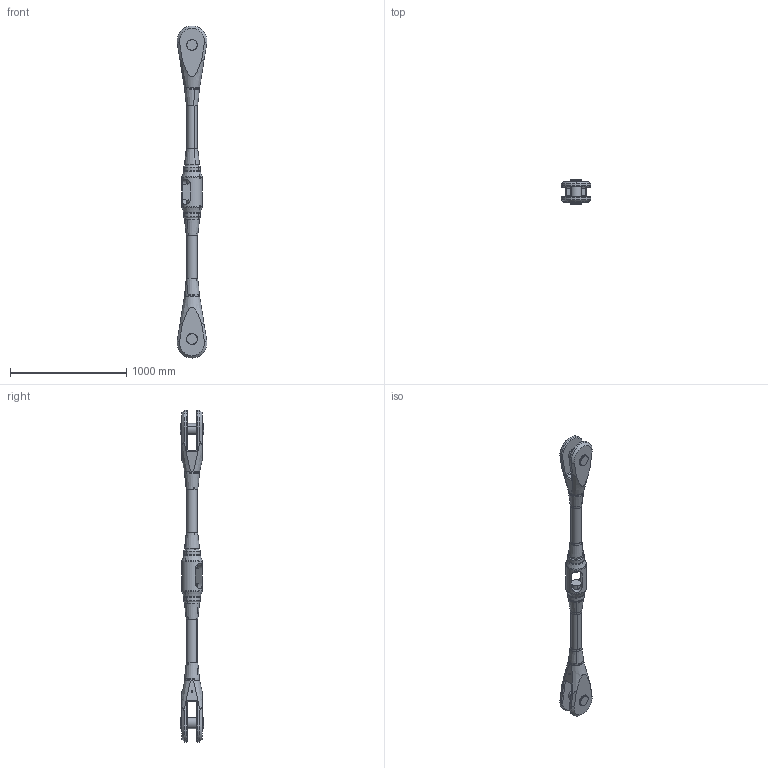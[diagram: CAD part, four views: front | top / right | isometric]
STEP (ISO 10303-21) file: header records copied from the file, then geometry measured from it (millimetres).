
FILE_DESCRIPTION (( 'STEP AP203' ), '1' );
FILE_NAME ('M90 G+AB+K.STEP', '2018-02-14T14:11:33', ( 'install' ), ( 'Hewlett-Packard Company' ), 'SwSTEP 2.0', 'SolidWorks 2017', '' );
FILE_SCHEMA (( 'CONFIG_CONTROL_DESIGN' ));
Length unit declared in the file: millimetre
Products named in the file (6): Bolzen SicherungsringVarB_generisch_M90; M90 G+AB+K; Gabelkopf Kunde_M90; Abdeckhülse_generisch_M90; Kreuzmuffe_M90; Zugstab_M90
Assembly tree (11 placements, depth 2):
  M90 G+AB+K
    Gabelkopf Kunde_M90  x2
    Abdeckhülse_generisch_M90  x4
    Kreuzmuffe_M90
    Zugstab_M90  x2
    Bolzen SicherungsringVarB_generisch_M90  x2
Bounding box: 254.97 x 203 x 2853 mm (x, y, z)
Volume: 40435782.9 mm3; surface area: 2583690 mm2
Topology: 11 solids, 11 shells, 312 faces, 754 edges, 454 vertices
Faces by surface type: cylinder 158, plane 66, cone 54, torus 26, bspline 8
Entity records: 6858 total; most frequent: CARTESIAN_POINT 2663, DIRECTION 750, ORIENTED_EDGE 698, EDGE_CURVE 349, AXIS2_PLACEMENT_3D 315, VERTEX_POINT 206, EDGE_LOOP 169, CIRCLE 157
